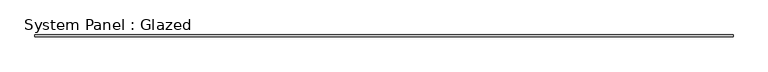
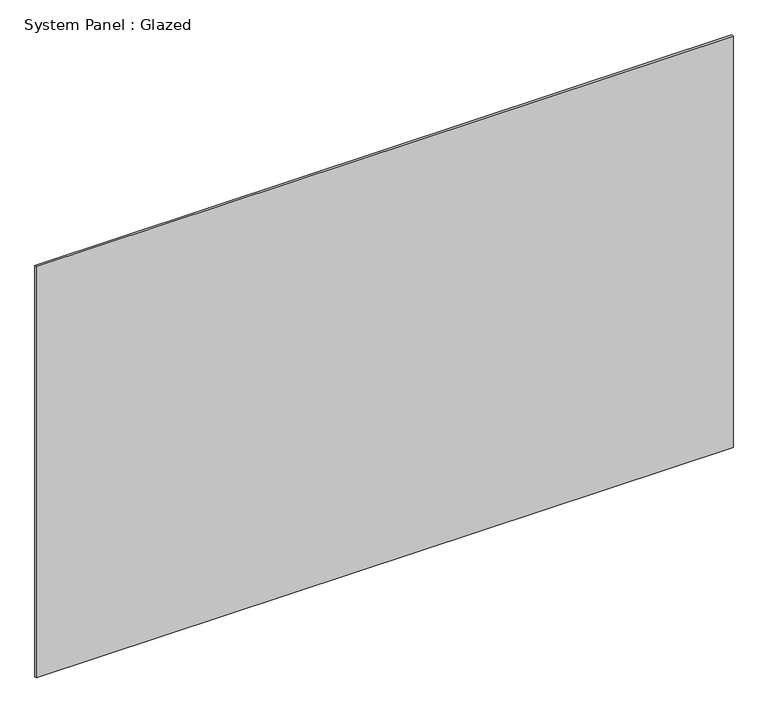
"""IFC4 building model written with IfcOpenShell, lengths in millimetres: plate geometry, System Panel : Glazed."""

import ifcopenshell
import ifcopenshell.guid

model = None  # the IFC model being written
_history = None  # IfcOwnerHistory: only IFC2X3 demands one
_inside = {}  # id of a spatial element -> (the spatial element, [elements in it])
_under = {}  # id of a project, library or spatial element -> (it, [spatial elements below it])
_declared = {}  # id of a project -> (the project, [libraries it declares])
_typed = {}  # id of a type object -> (the type object, [elements of that type])
_made_of = {}  # id of a material, layer set ... -> (it, [elements and type objects made of it])


def new_model(schema):
    """Start an empty IFC model of exactly this schema.

    Asked for "IFC4X3", IfcOpenShell would pick the latest addendum, in which some entities
    have other attributes; the version numbers below select the first issue.
    IFC2X3 requires an IfcOwnerHistory on every rooted entity: one is made here for all.
    """
    global model, _history
    if schema == "IFC4X3":
        model = ifcopenshell.file(schema_version=(4, 3, 0, 0))
    else:
        model = ifcopenshell.file(schema=schema)
    _inside.clear()
    _under.clear()
    _declared.clear()
    _typed.clear()
    _made_of.clear()
    _history = None
    if model.schema == "IFC2X3":
        org = make("IfcOrganization", Name="unknown")
        user = make(
            "IfcPersonAndOrganization",
            ThePerson=make("IfcPerson", FamilyName="unknown"),
            TheOrganization=org,
        )
        app = make(
            "IfcApplication",
            ApplicationDeveloper=org,
            Version="unknown",
            ApplicationFullName="unknown",
            ApplicationIdentifier="unknown",
        )
        _history = make(
            "IfcOwnerHistory",
            OwningUser=user,
            OwningApplication=app,
            ChangeAction="ADDED",
            CreationDate=0,
        )
    return model


def make(cls, **values):
    """One entity of the class cls with the attributes given. An attribute that is None is left unset."""
    return model.create_entity(
        cls, **{name: value for name, value in values.items() if value is not None}
    )


def rooted(cls, **values):
    """An entity with a GlobalId (a new one), such as an element, a storey or a relation."""
    return make(cls, GlobalId=ifcopenshell.guid.new(), OwnerHistory=_history, **values)


def si_unit(unit_type, name, prefix=None):
    """IfcSIUnit, for example si_unit("LENGTHUNIT", "METRE", prefix="MILLI")."""
    return make("IfcSIUnit", UnitType=unit_type, Prefix=prefix, Name=name)


def assignment(units):
    """IfcUnitAssignment: the units of a project."""
    return None if units is None else make("IfcUnitAssignment", Units=units)


def point(xyz):
    """IfcCartesianPoint."""
    return None if xyz is None else make("IfcCartesianPoint", Coordinates=xyz)


def direction(xyz):
    """IfcDirection."""
    return None if xyz is None else make("IfcDirection", DirectionRatios=xyz)


def frame(location, z_axis=None, x_axis=None):
    """IfcAxis2Placement3D, a coordinate frame: its origin and axes. An axis left out is left unset."""
    return make(
        "IfcAxis2Placement3D",
        Location=point(location),
        Axis=direction(z_axis),
        RefDirection=direction(x_axis),
    )


def origin():
    """The frame at (0, 0, 0) with its axes left unset."""
    return frame((0.0, 0.0, 0.0))


def origin_with_axes():
    """The frame at (0, 0, 0) with the z axis (0, 0, 1) and the x axis (1, 0, 0) written out."""
    return frame((0.0, 0.0, 0.0), z_axis=(0.0, 0.0, 1.0), x_axis=(1.0, 0.0, 0.0))


def place(relative_to, where):
    """IfcLocalPlacement: puts the frame where relative to a parent placement (None: the world)."""
    return make(
        "IfcLocalPlacement", PlacementRelTo=relative_to, RelativePlacement=where
    )


def context(
    kind, dimensions, precision=None, world=None, true_north=None, identifier=None
):
    """IfcGeometricRepresentationContext, for example the 3D "Model" context."""
    return make(
        "IfcGeometricRepresentationContext",
        ContextIdentifier=identifier,
        ContextType=kind,
        CoordinateSpaceDimension=dimensions,
        Precision=precision,
        WorldCoordinateSystem=world,
        TrueNorth=true_north,
    )


def project(units=None, contexts=None):
    """IfcProject with its units and contexts."""
    return rooted(
        "IfcProject",
        Name="project",
        RepresentationContexts=contexts,
        UnitsInContext=assignment(units),
    )


def spatial(cls, under=None, at=None, **own):
    """A site, building, storey or space (cls), placed at a placement, below another one or the project."""
    s = rooted(cls, ObjectPlacement=at, **own)
    if under is not None:
        _under.setdefault(under.id(), (under, []))[1].append(s)
    return s


def polyline(points):
    """IfcPolyline through the points."""
    return make("IfcPolyline", Points=[point(p) for p in points])


def outline(outer, holes=None, kind="AREA"):
    """IfcArbitraryClosedProfileDef: a profile drawn as a closed curve; with holes, ...WithVoids."""
    if holes is None:
        return make("IfcArbitraryClosedProfileDef", ProfileType=kind, OuterCurve=outer)
    return make(
        "IfcArbitraryProfileDefWithVoids",
        ProfileType=kind,
        OuterCurve=outer,
        InnerCurves=holes,
    )


def extrude(swept, where, along, depth):
    """IfcExtrudedAreaSolid: the profile swept, set in the frame where, extruded along a direction by depth."""
    return make(
        "IfcExtrudedAreaSolid",
        SweptArea=swept,
        Position=where,
        ExtrudedDirection=direction(along),
        Depth=depth,
    )


def shape(context_of_items, identifier, shape_type, items):
    """IfcShapeRepresentation: the items that make up one representation, for example the "Body"."""
    return make(
        "IfcShapeRepresentation",
        ContextOfItems=context_of_items,
        RepresentationIdentifier=identifier,
        RepresentationType=shape_type,
        Items=items,
    )


def source(mapping_origin, context_of_items, identifier, shape_type, items):
    """IfcRepresentationMap: a shape defined once, which mapped items show again and again."""
    return make(
        "IfcRepresentationMap",
        MappingOrigin=mapping_origin,
        MappedRepresentation=shape(context_of_items, identifier, shape_type, items),
    )


def transform(
    local_origin,
    x_axis=None,
    y_axis=None,
    z_axis=None,
    scale=None,
    scale2=None,
    scale3=None,
    uniform=True,
):
    """IfcCartesianTransformationOperator3D, or its non-uniform kind. x_axis, y_axis, z_axis: its Axis1, 2, 3."""
    if uniform:
        return make(
            "IfcCartesianTransformationOperator3D",
            Axis1=direction(x_axis),
            Axis2=direction(y_axis),
            LocalOrigin=point(local_origin),
            Scale=scale,
            Axis3=direction(z_axis),
        )
    return make(
        "IfcCartesianTransformationOperator3DnonUniform",
        Axis1=direction(x_axis),
        Axis2=direction(y_axis),
        LocalOrigin=point(local_origin),
        Scale=scale,
        Axis3=direction(z_axis),
        Scale2=scale2,
        Scale3=scale3,
    )


def mapped(mapping_source, mapping_target):
    """IfcMappedItem: shows the shape of a source again, moved by a transform."""
    return make(
        "IfcMappedItem", MappingSource=mapping_source, MappingTarget=mapping_target
    )


def made_of(thing, what):
    """Note that an element or type object is made of a material, layer set ...; save() writes the relation."""
    if what is not None:
        _made_of.setdefault(what.id(), (what, []))[1].append(thing)
    return thing


def element(
    cls,
    number,
    at=None,
    inside=None,
    cuts=None,
    type_object=None,
    material=None,
    context=None,
    identifier="Body",
    shape_type=None,
    held_by="IfcProductDefinitionShape",
    body=None,
    shapes=None,
    **own,
):
    """One element of the class cls, such as IfcWall. Its Tag is "e" and its number.

    at: its placement. inside: the storey or other place that contains it. cuts: it is an
    opening in that element (IfcRelVoidsElement). A single representation is given by context,
    identifier, shape_type and body (its items); several are given by shapes. held_by: the class
    of the entity that holds the representations. save() writes the other relations.
    """
    e = rooted(cls, Tag="e%d" % number, ObjectPlacement=at, **own)
    if body is not None:
        shapes = [shape(context, identifier, shape_type, body)]
    if shapes is not None:
        e.Representation = make(held_by, Representations=shapes)
    if inside is not None:
        _inside.setdefault(inside.id(), (inside, []))[1].append(e)
    if cuts is not None:
        rooted(
            "IfcRelVoidsElement", RelatingBuildingElement=cuts, RelatedOpeningElement=e
        )
    if type_object is not None:
        _typed.setdefault(type_object.id(), (type_object, []))[1].append(e)
    return made_of(e, material)


def aggregate(whole, parts):
    """IfcRelAggregates: a whole, such as a stair, and the parts it consists of."""
    return rooted("IfcRelAggregates", RelatingObject=whole, RelatedObjects=parts)


def save(model, path):
    """Write the relations noted so far, then the file.

    IfcRelAggregates (storeys below a building ...), IfcRelContainedInSpatialStructure (elements
    in a storey), IfcRelDefinesByType, IfcRelAssociatesMaterial and IfcRelDeclares: one each for
    every whole, place, type object, material and project.
    """
    for whole, parts in _under.values():
        aggregate(whole, parts)
    for where, things in _inside.values():
        rooted(
            "IfcRelContainedInSpatialStructure",
            RelatedElements=things,
            RelatingStructure=where,
        )
    for kind, things in _typed.values():
        rooted("IfcRelDefinesByType", RelatedObjects=things, RelatingType=kind)
    for what, things in _made_of.values():
        rooted("IfcRelAssociatesMaterial", RelatedObjects=things, RelatingMaterial=what)
    for by, libraries in _declared.values():
        rooted("IfcRelDeclares", RelatingContext=by, RelatedDefinitions=libraries)
    model.write(path)


def system_panel_glazed_ef369acb(model_context):
    return source(origin(), model_context, "Body", "SweptSolid", [
        extrude(outline(polyline([(2138.5342236, 4.0), (-2138.5342236, 4.0), (-2138.5342236, 16.0), (2138.5342236, 16.0), (2138.5342236, 4.0)])), origin_with_axes(), (0.0, 0.0, 1.0), 2670.0),
    ])


if __name__ == "__main__":
    model = new_model("IFC4")
    model_context = context("Model", 3, world=origin())
    ifc_project = project(units=[si_unit("LENGTHUNIT", "METRE", prefix="MILLI")], contexts=[model_context])
    site = spatial("IfcSite", under=ifc_project)
    building = spatial("IfcBuilding", under=site)
    placement = place(None, origin())
    system_panel_glazed_shape = system_panel_glazed_ef369acb(model_context)
    element("IfcPlate", 1, ObjectType="System Panel : Glazed", at=placement, inside=building, context=model_context, shape_type="MappedRepresentation", body=[
        mapped(system_panel_glazed_shape, transform((0.0, 0.0, 0.0), x_axis=(1.0, 0.0, 0.0), y_axis=(0.0, 1.0, 0.0), z_axis=(0.0, 0.0, 1.0))),
    ])
    save(model, "model.ifc")
